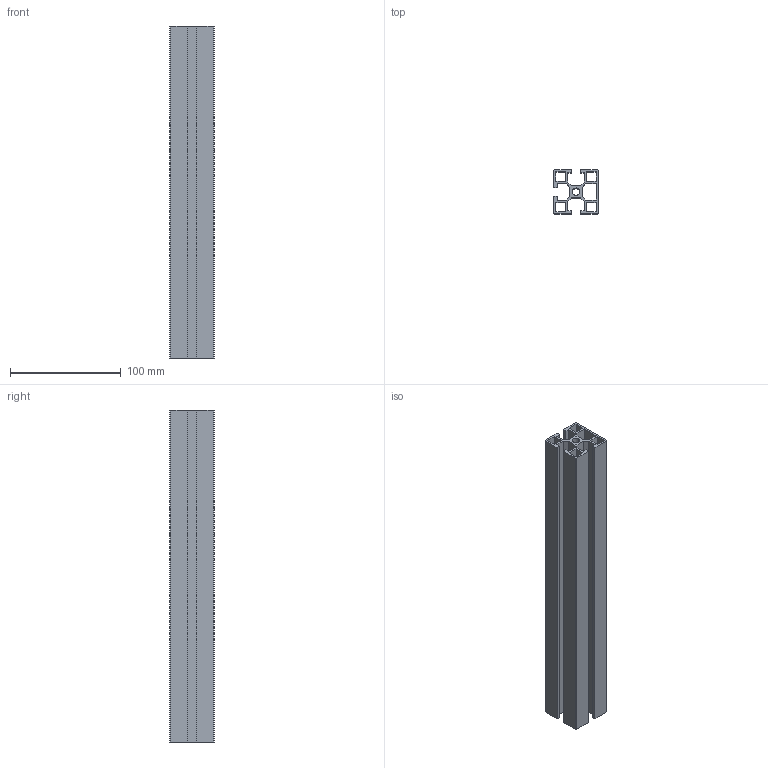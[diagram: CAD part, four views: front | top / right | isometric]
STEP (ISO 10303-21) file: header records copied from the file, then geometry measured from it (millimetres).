
FILE_DESCRIPTION (( 'STEP AP203' ), '1' );
FILE_NAME ('CG-4040FE-8.STEP', '2020-05-14T13:03:28', ( '微软用户' ), ( '微软中国' ), 'SwSTEP 2.0', 'SolidWorks 2017', '' );
FILE_SCHEMA (( 'CONFIG_CONTROL_DESIGN' ));
Length unit declared in the file: millimetre
Products named in the file (1): CG-4040FE-8
Bounding box: 40 x 40 x 300 mm (x, y, z)
Volume: 152201.5 mm3; surface area: 148090.3 mm2
Topology: 1 solids, 1 shells, 64 faces, 186 edges, 124 vertices
Faces by surface type: plane 58, cylinder 6
Entity records: 2183 total; most frequent: CARTESIAN_POINT 375, ORIENTED_EDGE 372, DIRECTION 328, EDGE_CURVE 186, LINE 174, VECTOR 174, VERTEX_POINT 124, AXIS2_PLACEMENT_3D 77
